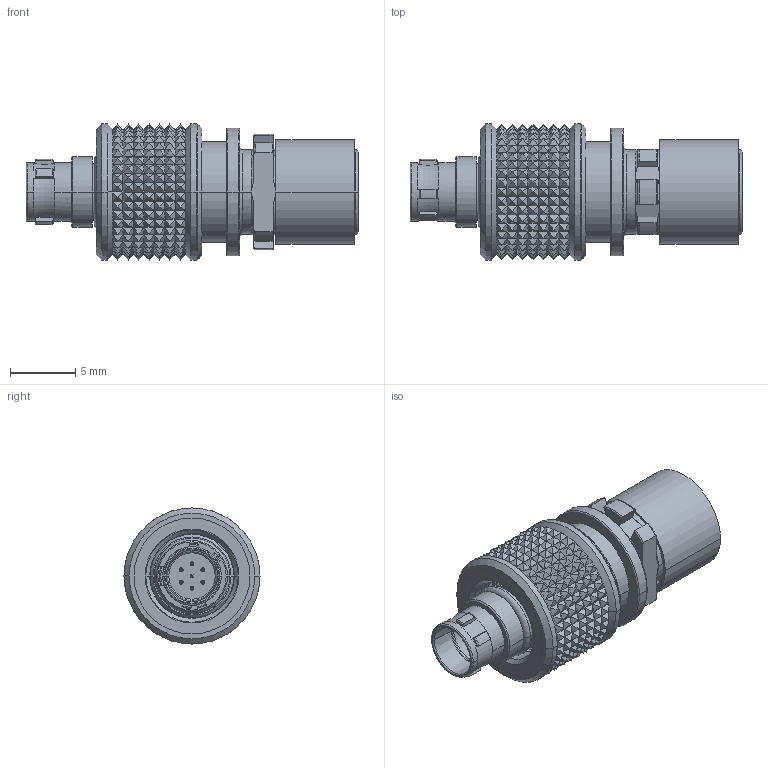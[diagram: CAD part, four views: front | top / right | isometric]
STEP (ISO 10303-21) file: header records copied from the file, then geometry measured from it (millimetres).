
FILE_DESCRIPTION((''),'2;1');
FILE_NAME('PRT0001','2019-10-02T',('DTurza'),(''),'PRO/ENGINEER BY PARAMETRIC TECHNOLOGY CORPORATION, 2016360','PRO/ENGINEER BY PARAMETRIC TECHNOLOGY CORPORATION, 2016360','');
FILE_SCHEMA(('AUTOMOTIVE_DESIGN { 1 0 10303 214 1 1 1 1 }'));
Products named in the file (1): PRT0001
Bounding box: 25.5 x 10.45 x 10.45 mm (x, y, z)
Volume: 740.7 mm3; surface area: 2093.2 mm2
Topology: 2 solids, 3 shells, 1620 faces, 3228 edges, 1623 vertices
Faces by surface type: plane 691, cone 666, cylinder 150, torus 85, bspline 14, sphere 14
Entity records: 55480 total; most frequent: CARTESIAN_POINT 12970, ORIENTED_EDGE 6400, DIRECTION 6357, EDGE_CURVE 3200, AXIS2_PLACEMENT_3D 2846, EDGE_LOOP 1663, VERTEX_POINT 1623, FILL_AREA_STYLE_COLOUR 1623
